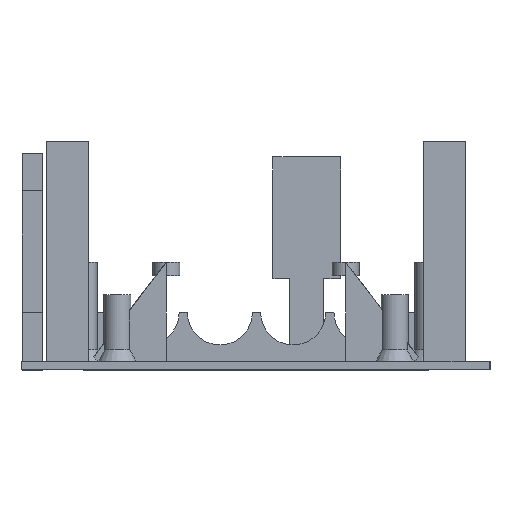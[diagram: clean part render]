
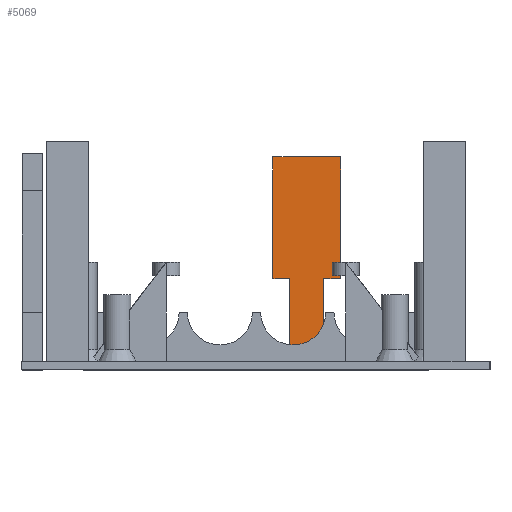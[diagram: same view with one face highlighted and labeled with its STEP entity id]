
A CAD part, left-side view. The second image highlights one B-rep face of the part: STEP entity #5069.
In plain terms, the highlighted planar face has unit normal (-1, 0, 0).
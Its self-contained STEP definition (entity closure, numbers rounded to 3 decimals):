
#126 = PLANE('',#127);
#127 = AXIS2_PLACEMENT_3D('',#128,#129,#130);
#128 = CARTESIAN_POINT('',(0.8,0.8,2.4));
#129 = DIRECTION('',(0.,0.,1.));
#130 = DIRECTION('',(1.,0.,-0.));
#266 = VERTEX_POINT('',#267);
#267 = CARTESIAN_POINT('',(183.2,50.,2.4));
#280 = PLANE('',#281);
#281 = AXIS2_PLACEMENT_3D('',#282,#283,#284);
#282 = CARTESIAN_POINT('',(183.2,50.,-0.1));
#283 = DIRECTION('',(-0.,1.,0.));
#284 = DIRECTION('',(0.,0.,1.));
#291 = EDGE_CURVE('',#266,#292,#294,.T.);
#292 = VERTEX_POINT('',#293);
#293 = CARTESIAN_POINT('',(183.2,60.,2.4));
#294 = SURFACE_CURVE('',#295,(#299,#305),.PCURVE_S1.);
#295 = LINE('',#296,#297);
#296 = CARTESIAN_POINT('',(183.2,22.9,2.4));
#297 = VECTOR('',#298,1.);
#298 = DIRECTION('',(-0.,1.,0.));
#299 = PCURVE('',#126,#300);
#300 = DEFINITIONAL_REPRESENTATION('',(#301),#304);
#301 = B_SPLINE_CURVE_WITH_KNOTS('',1,(#302,#303),.UNSPECIFIED.,.F.,.F.,
  (2,2),(22.1,42.1),.PIECEWISE_BEZIER_KNOTS.);
#302 = CARTESIAN_POINT('',(182.4,44.2));
#303 = CARTESIAN_POINT('',(182.4,64.2));
#304 = ( GEOMETRIC_REPRESENTATION_CONTEXT(2) 
PARAMETRIC_REPRESENTATION_CONTEXT() REPRESENTATION_CONTEXT('2D SPACE',''
  ) );
#305 = PCURVE('',#306,#311);
#306 = PLANE('',#307);
#307 = AXIS2_PLACEMENT_3D('',#308,#309,#310);
#308 = CARTESIAN_POINT('',(183.2,45.,27.));
#309 = DIRECTION('',(1.,0.,-0.));
#310 = DIRECTION('',(0.,0.,1.));
#311 = DEFINITIONAL_REPRESENTATION('',(#312),#315);
#312 = B_SPLINE_CURVE_WITH_KNOTS('',1,(#313,#314),.UNSPECIFIED.,.F.,.F.,
  (2,2),(22.1,42.1),.PIECEWISE_BEZIER_KNOTS.);
#313 = CARTESIAN_POINT('',(-24.6,0.));
#314 = CARTESIAN_POINT('',(-24.6,-20.));
#315 = ( GEOMETRIC_REPRESENTATION_CONTEXT(2) 
PARAMETRIC_REPRESENTATION_CONTEXT() REPRESENTATION_CONTEXT('2D SPACE',''
  ) );
#332 = PLANE('',#333);
#333 = AXIS2_PLACEMENT_3D('',#334,#335,#336);
#334 = CARTESIAN_POINT('',(183.2,60.,-0.1));
#335 = DIRECTION('',(-0.,1.,0.));
#336 = DIRECTION('',(0.,0.,1.));
#4239 = PLANE('',#4240);
#4240 = AXIS2_PLACEMENT_3D('',#4241,#4242,#4243);
#4241 = CARTESIAN_POINT('',(183.2,45.,27.));
#4242 = DIRECTION('',(0.,0.,1.));
#4243 = DIRECTION('',(1.,0.,-0.));
#4267 = PLANE('',#4268);
#4268 = AXIS2_PLACEMENT_3D('',#4269,#4270,#4271);
#4269 = CARTESIAN_POINT('',(183.2,65.,27.));
#4270 = DIRECTION('',(-0.,1.,0.));
#4271 = DIRECTION('',(0.,0.,1.));
#4295 = PLANE('',#4296);
#4296 = AXIS2_PLACEMENT_3D('',#4297,#4298,#4299);
#4297 = CARTESIAN_POINT('',(183.2,45.,63.));
#4298 = DIRECTION('',(0.,0.,1.));
#4299 = DIRECTION('',(1.,0.,-0.));
#4323 = PLANE('',#4324);
#4324 = AXIS2_PLACEMENT_3D('',#4325,#4326,#4327);
#4325 = CARTESIAN_POINT('',(183.2,45.,27.));
#4326 = DIRECTION('',(-0.,1.,0.));
#4327 = DIRECTION('',(0.,0.,1.));
#4351 = PLANE('',#4352);
#4352 = AXIS2_PLACEMENT_3D('',#4353,#4354,#4355);
#4353 = CARTESIAN_POINT('',(183.2,45.,27.));
#4354 = DIRECTION('',(0.,0.,1.));
#4355 = DIRECTION('',(1.,0.,-0.));
#5028 = EDGE_CURVE('',#292,#5029,#5031,.T.);
#5029 = VERTEX_POINT('',#5030);
#5030 = CARTESIAN_POINT('',(183.2,60.,27.));
#5031 = SURFACE_CURVE('',#5032,(#5036,#5043),.PCURVE_S1.);
#5032 = LINE('',#5033,#5034);
#5033 = CARTESIAN_POINT('',(183.2,60.,-0.1));
#5034 = VECTOR('',#5035,1.);
#5035 = DIRECTION('',(0.,0.,1.));
#5036 = PCURVE('',#332,#5037);
#5037 = DEFINITIONAL_REPRESENTATION('',(#5038),#5042);
#5038 = LINE('',#5039,#5040);
#5039 = CARTESIAN_POINT('',(0.,0.));
#5040 = VECTOR('',#5041,1.);
#5041 = DIRECTION('',(1.,0.));
#5042 = ( GEOMETRIC_REPRESENTATION_CONTEXT(2) 
PARAMETRIC_REPRESENTATION_CONTEXT() REPRESENTATION_CONTEXT('2D SPACE',''
  ) );
#5043 = PCURVE('',#306,#5044);
#5044 = DEFINITIONAL_REPRESENTATION('',(#5045),#5049);
#5045 = LINE('',#5046,#5047);
#5046 = CARTESIAN_POINT('',(-27.1,-15.));
#5047 = VECTOR('',#5048,1.);
#5048 = DIRECTION('',(1.,0.));
#5049 = ( GEOMETRIC_REPRESENTATION_CONTEXT(2) 
PARAMETRIC_REPRESENTATION_CONTEXT() REPRESENTATION_CONTEXT('2D SPACE',''
  ) );
#5069 = ADVANCED_FACE('',(#5070),#306,.F.);
#5070 = FACE_BOUND('',#5071,.F.);
#5071 = EDGE_LOOP('',(#5072,#5097,#5120,#5143,#5166,#5187,#5188,#5189));
#5072 = ORIENTED_EDGE('',*,*,#5073,.T.);
#5073 = EDGE_CURVE('',#5074,#5076,#5078,.T.);
#5074 = VERTEX_POINT('',#5075);
#5075 = CARTESIAN_POINT('',(183.2,65.,27.));
#5076 = VERTEX_POINT('',#5077);
#5077 = CARTESIAN_POINT('',(183.2,65.,63.));
#5078 = SURFACE_CURVE('',#5079,(#5083,#5090),.PCURVE_S1.);
#5079 = LINE('',#5080,#5081);
#5080 = CARTESIAN_POINT('',(183.2,65.,27.));
#5081 = VECTOR('',#5082,1.);
#5082 = DIRECTION('',(0.,0.,1.));
#5083 = PCURVE('',#306,#5084);
#5084 = DEFINITIONAL_REPRESENTATION('',(#5085),#5089);
#5085 = LINE('',#5086,#5087);
#5086 = CARTESIAN_POINT('',(0.,-20.));
#5087 = VECTOR('',#5088,1.);
#5088 = DIRECTION('',(1.,0.));
#5089 = ( GEOMETRIC_REPRESENTATION_CONTEXT(2) 
PARAMETRIC_REPRESENTATION_CONTEXT() REPRESENTATION_CONTEXT('2D SPACE',''
  ) );
#5090 = PCURVE('',#4267,#5091);
#5091 = DEFINITIONAL_REPRESENTATION('',(#5092),#5096);
#5092 = LINE('',#5093,#5094);
#5093 = CARTESIAN_POINT('',(0.,0.));
#5094 = VECTOR('',#5095,1.);
#5095 = DIRECTION('',(1.,0.));
#5096 = ( GEOMETRIC_REPRESENTATION_CONTEXT(2) 
PARAMETRIC_REPRESENTATION_CONTEXT() REPRESENTATION_CONTEXT('2D SPACE',''
  ) );
#5097 = ORIENTED_EDGE('',*,*,#5098,.F.);
#5098 = EDGE_CURVE('',#5099,#5076,#5101,.T.);
#5099 = VERTEX_POINT('',#5100);
#5100 = CARTESIAN_POINT('',(183.2,45.,63.));
#5101 = SURFACE_CURVE('',#5102,(#5106,#5113),.PCURVE_S1.);
#5102 = LINE('',#5103,#5104);
#5103 = CARTESIAN_POINT('',(183.2,45.,63.));
#5104 = VECTOR('',#5105,1.);
#5105 = DIRECTION('',(-0.,1.,0.));
#5106 = PCURVE('',#306,#5107);
#5107 = DEFINITIONAL_REPRESENTATION('',(#5108),#5112);
#5108 = LINE('',#5109,#5110);
#5109 = CARTESIAN_POINT('',(36.,0.));
#5110 = VECTOR('',#5111,1.);
#5111 = DIRECTION('',(0.,-1.));
#5112 = ( GEOMETRIC_REPRESENTATION_CONTEXT(2) 
PARAMETRIC_REPRESENTATION_CONTEXT() REPRESENTATION_CONTEXT('2D SPACE',''
  ) );
#5113 = PCURVE('',#4295,#5114);
#5114 = DEFINITIONAL_REPRESENTATION('',(#5115),#5119);
#5115 = LINE('',#5116,#5117);
#5116 = CARTESIAN_POINT('',(0.,0.));
#5117 = VECTOR('',#5118,1.);
#5118 = DIRECTION('',(0.,1.));
#5119 = ( GEOMETRIC_REPRESENTATION_CONTEXT(2) 
PARAMETRIC_REPRESENTATION_CONTEXT() REPRESENTATION_CONTEXT('2D SPACE',''
  ) );
#5120 = ORIENTED_EDGE('',*,*,#5121,.F.);
#5121 = EDGE_CURVE('',#5122,#5099,#5124,.T.);
#5122 = VERTEX_POINT('',#5123);
#5123 = CARTESIAN_POINT('',(183.2,45.,27.));
#5124 = SURFACE_CURVE('',#5125,(#5129,#5136),.PCURVE_S1.);
#5125 = LINE('',#5126,#5127);
#5126 = CARTESIAN_POINT('',(183.2,45.,27.));
#5127 = VECTOR('',#5128,1.);
#5128 = DIRECTION('',(0.,0.,1.));
#5129 = PCURVE('',#306,#5130);
#5130 = DEFINITIONAL_REPRESENTATION('',(#5131),#5135);
#5131 = LINE('',#5132,#5133);
#5132 = CARTESIAN_POINT('',(0.,0.));
#5133 = VECTOR('',#5134,1.);
#5134 = DIRECTION('',(1.,0.));
#5135 = ( GEOMETRIC_REPRESENTATION_CONTEXT(2) 
PARAMETRIC_REPRESENTATION_CONTEXT() REPRESENTATION_CONTEXT('2D SPACE',''
  ) );
#5136 = PCURVE('',#4323,#5137);
#5137 = DEFINITIONAL_REPRESENTATION('',(#5138),#5142);
#5138 = LINE('',#5139,#5140);
#5139 = CARTESIAN_POINT('',(0.,0.));
#5140 = VECTOR('',#5141,1.);
#5141 = DIRECTION('',(1.,0.));
#5142 = ( GEOMETRIC_REPRESENTATION_CONTEXT(2) 
PARAMETRIC_REPRESENTATION_CONTEXT() REPRESENTATION_CONTEXT('2D SPACE',''
  ) );
#5143 = ORIENTED_EDGE('',*,*,#5144,.T.);
#5144 = EDGE_CURVE('',#5122,#5145,#5147,.T.);
#5145 = VERTEX_POINT('',#5146);
#5146 = CARTESIAN_POINT('',(183.2,50.,27.));
#5147 = SURFACE_CURVE('',#5148,(#5152,#5159),.PCURVE_S1.);
#5148 = LINE('',#5149,#5150);
#5149 = CARTESIAN_POINT('',(183.2,45.,27.));
#5150 = VECTOR('',#5151,1.);
#5151 = DIRECTION('',(-0.,1.,0.));
#5152 = PCURVE('',#306,#5153);
#5153 = DEFINITIONAL_REPRESENTATION('',(#5154),#5158);
#5154 = LINE('',#5155,#5156);
#5155 = CARTESIAN_POINT('',(0.,0.));
#5156 = VECTOR('',#5157,1.);
#5157 = DIRECTION('',(0.,-1.));
#5158 = ( GEOMETRIC_REPRESENTATION_CONTEXT(2) 
PARAMETRIC_REPRESENTATION_CONTEXT() REPRESENTATION_CONTEXT('2D SPACE',''
  ) );
#5159 = PCURVE('',#4351,#5160);
#5160 = DEFINITIONAL_REPRESENTATION('',(#5161),#5165);
#5161 = LINE('',#5162,#5163);
#5162 = CARTESIAN_POINT('',(0.,0.));
#5163 = VECTOR('',#5164,1.);
#5164 = DIRECTION('',(0.,1.));
#5165 = ( GEOMETRIC_REPRESENTATION_CONTEXT(2) 
PARAMETRIC_REPRESENTATION_CONTEXT() REPRESENTATION_CONTEXT('2D SPACE',''
  ) );
#5166 = ORIENTED_EDGE('',*,*,#5167,.F.);
#5167 = EDGE_CURVE('',#266,#5145,#5168,.T.);
#5168 = SURFACE_CURVE('',#5169,(#5173,#5180),.PCURVE_S1.);
#5169 = LINE('',#5170,#5171);
#5170 = CARTESIAN_POINT('',(183.2,50.,-0.1));
#5171 = VECTOR('',#5172,1.);
#5172 = DIRECTION('',(0.,0.,1.));
#5173 = PCURVE('',#306,#5174);
#5174 = DEFINITIONAL_REPRESENTATION('',(#5175),#5179);
#5175 = LINE('',#5176,#5177);
#5176 = CARTESIAN_POINT('',(-27.1,-5.));
#5177 = VECTOR('',#5178,1.);
#5178 = DIRECTION('',(1.,0.));
#5179 = ( GEOMETRIC_REPRESENTATION_CONTEXT(2) 
PARAMETRIC_REPRESENTATION_CONTEXT() REPRESENTATION_CONTEXT('2D SPACE',''
  ) );
#5180 = PCURVE('',#280,#5181);
#5181 = DEFINITIONAL_REPRESENTATION('',(#5182),#5186);
#5182 = LINE('',#5183,#5184);
#5183 = CARTESIAN_POINT('',(0.,0.));
#5184 = VECTOR('',#5185,1.);
#5185 = DIRECTION('',(1.,0.));
#5186 = ( GEOMETRIC_REPRESENTATION_CONTEXT(2) 
PARAMETRIC_REPRESENTATION_CONTEXT() REPRESENTATION_CONTEXT('2D SPACE',''
  ) );
#5187 = ORIENTED_EDGE('',*,*,#291,.T.);
#5188 = ORIENTED_EDGE('',*,*,#5028,.T.);
#5189 = ORIENTED_EDGE('',*,*,#5190,.T.);
#5190 = EDGE_CURVE('',#5029,#5074,#5191,.T.);
#5191 = SURFACE_CURVE('',#5192,(#5196,#5203),.PCURVE_S1.);
#5192 = LINE('',#5193,#5194);
#5193 = CARTESIAN_POINT('',(183.2,45.,27.));
#5194 = VECTOR('',#5195,1.);
#5195 = DIRECTION('',(-0.,1.,0.));
#5196 = PCURVE('',#306,#5197);
#5197 = DEFINITIONAL_REPRESENTATION('',(#5198),#5202);
#5198 = LINE('',#5199,#5200);
#5199 = CARTESIAN_POINT('',(0.,0.));
#5200 = VECTOR('',#5201,1.);
#5201 = DIRECTION('',(0.,-1.));
#5202 = ( GEOMETRIC_REPRESENTATION_CONTEXT(2) 
PARAMETRIC_REPRESENTATION_CONTEXT() REPRESENTATION_CONTEXT('2D SPACE',''
  ) );
#5203 = PCURVE('',#4239,#5204);
#5204 = DEFINITIONAL_REPRESENTATION('',(#5205),#5209);
#5205 = LINE('',#5206,#5207);
#5206 = CARTESIAN_POINT('',(0.,0.));
#5207 = VECTOR('',#5208,1.);
#5208 = DIRECTION('',(0.,1.));
#5209 = ( GEOMETRIC_REPRESENTATION_CONTEXT(2) 
PARAMETRIC_REPRESENTATION_CONTEXT() REPRESENTATION_CONTEXT('2D SPACE',''
  ) );
